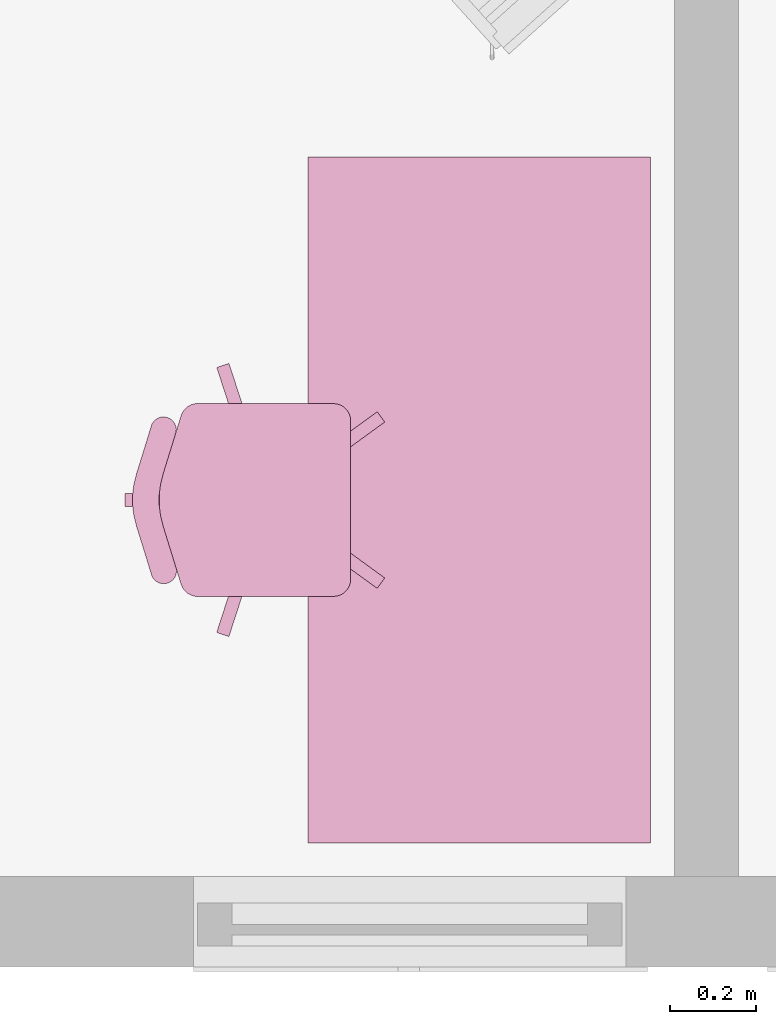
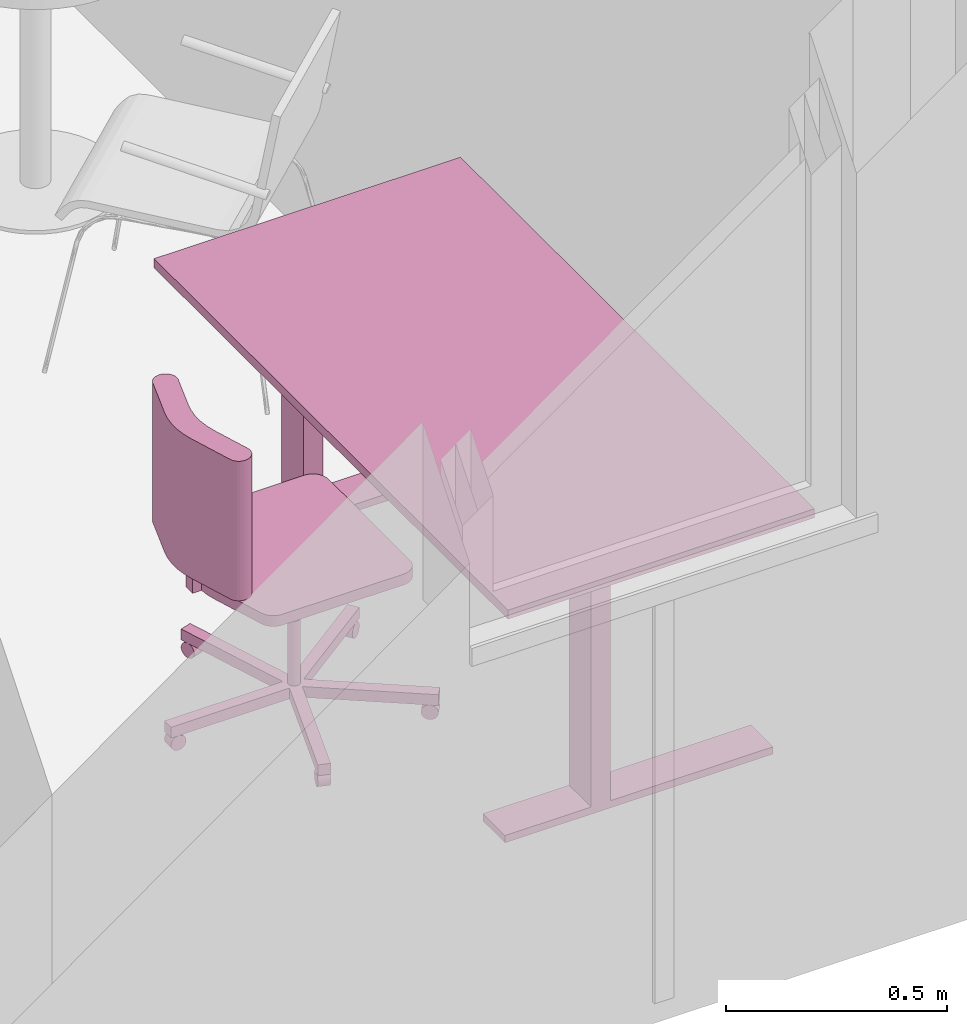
# One storey, part 50 of 58: 2 furnishings.
"""IFC2X3 building model written with IfcOpenShell, lengths in millimetres."""

from ifc_helpers import new_model, entity, si_unit, converted_unit, derived_unit, direction, frame, frame_2d, origin, origin_2d_with_axis, place, context, subcontext, project, spatial, polyline, circle_curve, parameter, trimmed, segment, composite_curve, rectangle, circle, outline, extrude, source, transform, mapped, material, material_list, type_object, type_shapes, element, save


model = new_model("IFC2X3")

# Units and contexts
model_context = context("Model", 3, precision=0.01, world=origin(), true_north=direction((0.7716245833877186, 0.6360782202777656)))
body_context = subcontext(model_context, "Body", "Model", "MODEL_VIEW")
ifc_project = project(units=[si_unit("LENGTHUNIT", "METRE", prefix="MILLI"), si_unit("AREAUNIT", "SQUARE_METRE"), converted_unit("PLANEANGLEUNIT", "DEGREE", entity("IfcPlaneAngleMeasure", 0.017453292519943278), si_unit("PLANEANGLEUNIT", "RADIAN"), dimensions=[0, 0, 0, 0, 0, 0, 0]), derived_unit("THERMALTRANSMITTANCEUNIT", [(si_unit("MASSUNIT", "GRAM", prefix="KILO"), 1), (si_unit("THERMODYNAMICTEMPERATUREUNIT", "KELVIN"), -1), (si_unit("TIMEUNIT", "SECOND"), -3)])], contexts=[model_context])

# Site, building, storey, space
site_placement = place(None, origin())
site = spatial("IfcSite", under=ifc_project, at=site_placement, Name="Default", CompositionType="ELEMENT")
building_placement = place(site_placement, origin())
building = spatial("IfcBuilding", under=site, at=building_placement, CompositionType="ELEMENT")
storey_placement = place(building_placement, frame((0.0, 0.0, 31140.0)))
storey = spatial("IfcBuildingStorey", under=building, at=storey_placement, Name="PLAN U1", CompositionType="ELEMENT", Elevation=31140.000000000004)
space_placement = place(storey_placement, origin())
space = spatial("IfcSpace", under=storey, at=space_placement, Name="B5-322", CompositionType="ELEMENT", InteriorOrExteriorSpace="INTERNAL")

# Furnishings
ifc_material_1 = material(Name="Metall")
ifc_material_2 = material(Name="Stoff")
ifc_material_list_1 = material_list([ifc_material_1, ifc_material_2])
furniture_type_1 = type_object("IfcFurnitureType", Name="Kontorstol_uten_arml:Kontorstol", AssemblyPlace="NOTDEFINED", material=ifc_material_list_1)
shared_shape_1 = source(origin(), body_context, "Body", "SweptSolid", [
    extrude(rectangle(XDim=23.3196738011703, YDim=29.99387697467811, at=frame_2d((3.375077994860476e-14, 1.7763568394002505e-15), x_axis=(1.0, 0.0))), frame((-0.08594931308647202, -458.13719107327, 420.0), z_axis=(0.0, 0.0, 1.0), x_axis=(0.0, 1.0, 0.0)), (0.0, 0.0, 1.0), 79.99999999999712),
    extrude(outline(composite_curve([segment(trimmed(circle_curve(frame_2d((165.0817705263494, 15.912125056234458), x_axis=(1.0, 0.0)), 30.0), [parameter(295.76627852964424)], [parameter(98.60793662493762)], True, "PARAMETER"), True, "CONTINUOUS"), segment(polyline([(160.59160138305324, 45.57419479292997), (58.70469351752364, 14.060049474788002)]), True, "CONTINUOUS"), segment(trimmed(circle_curve(frame_2d((-0.3939245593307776, 205.1290248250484), x_axis=(1.0, 0.0)), 199.99999999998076), [parameter(252.8128926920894)], [parameter(287.1871075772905)], True, "PARAMETER"), False, "CONTINUOUS"), segment(polyline([(-59.492541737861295, 14.0600491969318), (-159.8037548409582, 45.08682349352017)]), True, "CONTINUOUS"), segment(trimmed(circle_curve(frame_2d((-164.29392269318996, 15.42475356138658), x_axis=(1.0, 0.0)), 30.0), [parameter(81.3920658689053)], [parameter(244.23371951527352)], True, "PARAMETER"), True, "CONTINUOUS"), segment(polyline([(-177.33495783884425, -11.592489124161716), (-59.492540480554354, -48.04175509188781)]), True, "CONTINUOUS"), segment(trimmed(circle_curve(frame_2d((-0.3939233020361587, 143.0272205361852), x_axis=(1.0, 0.0)), 199.99999999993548), [parameter(252.81289269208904)], [parameter(287.18710771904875)], True, "PARAMETER"), True, "CONTINUOUS"), segment(polyline([(58.70469524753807, -48.04175466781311), (178.12280475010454, -11.105118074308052)]), True, "CONTINUOUS")], self_intersect=False)), frame((0.39392509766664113, -452.30864581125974, 500.0)), (0.0, 0.0, 1.0), 384.9999999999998),
    extrude(outline(composite_curve([segment(polyline([(-185.0, -246.35232221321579), (185.0, -246.35232221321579)]), True, "CONTINUOUS"), segment(trimmed(circle_curve(frame_2d((185.0, -206.35232221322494), x_axis=(-1.0, 0.0)), 39.99999999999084), [parameter(89.99999999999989)], [parameter(180.00000000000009)], True, "PARAMETER"), True, "CONTINUOUS"), segment(polyline([(225.0, -206.35232221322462), (225.0, 106.42448376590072)]), True, "CONTINUOUS"), segment(trimmed(circle_curve(frame_2d((184.42156675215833, 110.53750606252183), x_axis=(-1.0, 0.0)), 40.78634828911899), [parameter(174.21227731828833)], [parameter(256.6772413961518)], True, "PARAMETER"), True, "CONTINUOUS"), segment(polyline([(193.82022104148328, 150.22618838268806), (59.098617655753, 191.8962741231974)]), True, "CONTINUOUS"), segment(trimmed(circle_curve(frame_2d((-4.212244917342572e-07, 0.8272987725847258), x_axis=(-1.0, 0.0)), 200.00000000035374), [parameter(252.81289242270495)], [parameter(287.1871075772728)], True, "PARAMETER"), True, "CONTINUOUS"), segment(polyline([(-59.09861849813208, 191.896274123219), (-193.8202209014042, 150.226188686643)]), True, "CONTINUOUS"), segment(trimmed(circle_curve(frame_2d((-184.37947209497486, 110.49005175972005), x_axis=(-1.0, 0.0)), 40.84223691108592), [parameter(283.3648812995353)], [parameter(354.02729163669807)], True, "PARAMETER"), True, "CONTINUOUS"), segment(polyline([(-225.0, 114.73987977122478), (-225.0, -206.35232221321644)]), True, "CONTINUOUS"), segment(trimmed(circle_curve(frame_2d((-185.0, -206.35232221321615), x_axis=(-1.0, 0.0)), 39.99999999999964), [parameter(359.9999999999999)], [parameter(89.99999999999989)], True, "PARAMETER"), True, "CONTINUOUS")], self_intersect=False)), frame((1.1704745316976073e-07, -246.35232221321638, 420.0), z_axis=(0.0, 0.0, 1.0), x_axis=(-1.0, 0.0, 0.0)), (0.0, 0.0, 1.0), 30.000000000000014),
    extrude(circle(Radius=19.999999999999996, at=frame_2d((0.0, -3.383959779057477e-14), x_axis=(1.0, 0.0))), frame((-194.12496236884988, 45.75823201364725, 20.0), z_axis=(0.8091973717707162, 0.5875369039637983, 0.0), x_axis=(-0.5875369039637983, 0.8091973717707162, 0.0)), (0.0, 0.0, 1.0), 29.630650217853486),
    extrude(circle(Radius=19.999999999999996, at=frame_2d((0.0, -8.882894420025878e-14), x_axis=(1.0, 0.0))), frame((-15.095151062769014, -506.38378426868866, 20.0), z_axis=(0.9999999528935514, -0.0003069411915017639, 0.0), x_axis=(-0.0003069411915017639, -0.9999999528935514, 0.0)), (0.0, 0.0, 1.0), 29.999999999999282),
    extrude(circle(Radius=19.999999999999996, at=frame_2d((0.0, -8.882894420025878e-14), x_axis=(1.0, 0.0))), frame((-299.4877855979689, -277.8259021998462, 20.0), z_axis=(0.3087250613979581, -0.9511513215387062, 0.0), x_axis=(-0.9511513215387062, -0.3087250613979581, 0.0)), (0.0, 0.0, 1.0), 29.99999999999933),
    extrude(circle(Radius=19.999999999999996, at=frame_2d((6.842675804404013e-15, -8.882894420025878e-14), x_axis=(1.0, 0.0))), frame((194.42294713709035, 45.53042146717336, 20.0), z_axis=(-0.8088365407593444, 0.5880335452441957, 0.0), x_axis=(0.5880335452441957, 0.8088365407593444, 0.0)), (0.0, 0.0, 1.0), 29.999999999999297),
    extrude(circle(Radius=19.999999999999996, at=frame_2d((0.0, -8.882894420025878e-14), x_axis=(1.0, 0.0))), frame((290.1584691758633, -306.53858576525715, 20.0), z_axis=(0.30930889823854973, 0.9509616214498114, 0.0), x_axis=(0.9509616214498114, -0.30930889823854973, 0.0)), (0.0, 0.0, 1.0), 29.999999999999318),
    extrude(circle(Radius=11.0, at=frame_2d((-8.56791021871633e-15, -6.228970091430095e-15), x_axis=(1.0, 0.0))), frame((0.0, -196.38840298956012, 248.23543396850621), z_axis=(0.0, 0.0, 1.0), x_axis=(0.8088365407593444, -0.5880335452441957, 0.0)), (0.0, 0.0, 1.0), 171.76456603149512),
    extrude(circle(Radius=14.999999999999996, at=frame_2d((1.2051828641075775e-14, 8.761819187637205e-15), x_axis=(1.0, 0.0))), frame((0.0, -196.38840298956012, 70.0), z_axis=(0.0, 0.0, 1.0), x_axis=(0.8088365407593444, -0.5880335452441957, 0.0)), (0.0, 0.0, 1.0), 178.2354339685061),
    extrude(outline(polyline([(20.59372489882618, -14.81532510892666), (330.00800060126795, -14.81532510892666), (330.00800060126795, 14.815325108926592), (20.593724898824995, 14.815325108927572), (116.2494564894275, 309.2133954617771), (87.71776100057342, 318.48390529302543), (-7.87796608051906, 24.270509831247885), (-258.1508287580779, 206.10438817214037), (-275.7843863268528, 181.83387834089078), (-25.511523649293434, 0.0), (-275.78438632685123, -181.83387834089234), (-258.1508287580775, -206.10438817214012), (-7.877966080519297, -24.27050983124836), (87.71776100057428, -318.4839052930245), (116.24945648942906, -309.2133954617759), (20.59372489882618, -14.81532510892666)])), frame((0.004700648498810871, -196.39487705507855, 40.0), z_axis=(0.0, 0.0, 1.0), x_axis=(-0.5875369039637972, 0.8091973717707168, 0.0)), (0.0, 0.0, 1.0), 29.999999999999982),
])
type_shapes(furniture_type_1, [shared_shape_1])
furnishing_1_placement = place(space_placement, frame((274577.924446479, 54405.45756882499, 0.0), z_axis=(0.0, 0.0, 1.0), x_axis=(0.0, -1.0, 0.0)))
element("IfcFurnishingElement", 1, at=furnishing_1_placement, inside=space, type_object=furniture_type_1, material=ifc_material_list_1, Name="Kontorstol_uten_arml:Kontorstol", ObjectType="Kontorstol_uten_arml:Kontorstol", context=body_context, shape_type="MappedRepresentation", body=[
    mapped(shared_shape_1, transform((0.0, 0.0, 0.0), scale=1.0)),
])
ifc_material_3 = material(Name="Plate")
ifc_material_list_2 = material_list([ifc_material_1, ifc_material_3])
furniture_type_2 = type_object("IfcFurnitureType", Name="Arbeidsbord_elektrisk_hevsenk:Arbbord 800x1600", AssemblyPlace="NOTDEFINED", material=ifc_material_list_2)
shared_shape_2 = source(origin(), body_context, "Body", "SweptSolid", [
    extrude(rectangle(XDim=99.99999999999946, YDim=50.0, at=origin_2d_with_axis()), frame((650.0, -300.0, 20.0)), (0.0, 0.0, 1.0), 674.9999999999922),
    extrude(rectangle(XDim=99.99999999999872, YDim=50.0, at=frame_2d((3.552713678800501e-14, 0.0), x_axis=(1.0, 0.0))), frame((-650.0, -300.0, 20.0)), (0.0, 0.0, 1.0), 674.9999999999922),
    extrude(rectangle(XDim=99.99999999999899, YDim=699.9999999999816, at=frame_2d((3.552713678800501e-14, 0.0), x_axis=(1.0, 0.0))), frame((650.0, -400.0, 0.0), z_axis=(0.0, 0.0, 1.0), x_axis=(-1.0, 0.0, 0.0)), (0.0, 0.0, 1.0), 19.999999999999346),
    extrude(rectangle(XDim=100.00000000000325, YDim=699.999999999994, at=frame_2d((0.0, -5.684341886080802e-14), x_axis=(1.0, 0.0))), frame((-650.0, -400.0, 0.0), z_axis=(0.0, 0.0, 1.0), x_axis=(-1.0, 0.0, 0.0)), (0.0, 0.0, 1.0), 19.999999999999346),
    extrude(rectangle(XDim=1599.9999999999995, YDim=799.9999999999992, at=origin_2d_with_axis()), frame((0.0, -400.0, 695.0), z_axis=(0.0, 0.0, 1.0), x_axis=(-1.0, 0.0, 0.0)), (0.0, 0.0, 1.0), 25.00000000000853),
    extrude(rectangle(XDim=1599.9999999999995, YDim=799.9999999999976, at=origin_2d_with_axis()), frame((0.0, -400.0, 695.0), z_axis=(0.0, 0.0, 1.0), x_axis=(-1.0, 0.0, 0.0)), (0.0, 0.0, 1.0), 25.00000000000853),
])
type_shapes(furniture_type_2, [shared_shape_2])
furnishing_2_placement = place(space_placement, frame((274477.924446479, 54405.457568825, 0.0), z_axis=(0.0, 0.0, 1.0), x_axis=(0.0, 1.0, 0.0)))
element("IfcFurnishingElement", 2, at=furnishing_2_placement, inside=space, type_object=furniture_type_2, material=ifc_material_list_2, Name="Arbeidsbord_elektrisk_hevsenk:Arbbord 800x1600", ObjectType="Arbeidsbord_elektrisk_hevsenk:Arbbord 800x1600", context=body_context, shape_type="MappedRepresentation", body=[
    mapped(shared_shape_2, transform((0.0, 0.0, 0.0), scale=1.0)),
])

save(model, "model.ifc")
